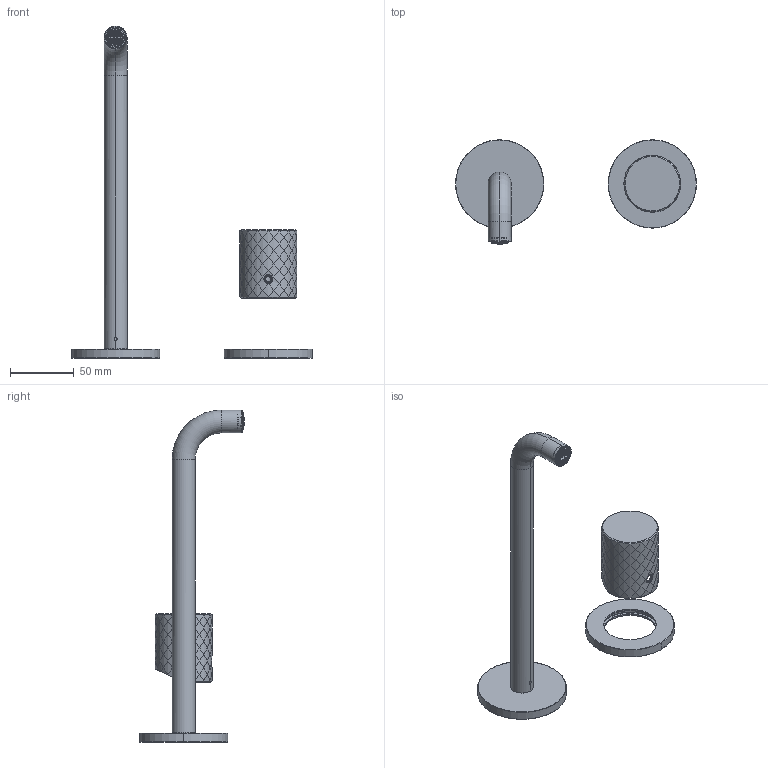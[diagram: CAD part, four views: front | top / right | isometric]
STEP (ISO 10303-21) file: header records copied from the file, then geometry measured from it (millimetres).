
FILE_DESCRIPTION((''),'2;1');
FILE_NAME('F3051ZX9X_FILE_3D','2019-02-19T',('ivanv'),(''),'CREO PARAMETRIC BY PTC INC, 2016260','CREO PARAMETRIC BY PTC INC, 2016260','');
FILE_SCHEMA(('CONFIG_CONTROL_DESIGN'));
Products named in the file (1): F3051ZX9X_FILE_3D
Bounding box: 189.5 x 82.61 x 261 mm (x, y, z)
Volume: 81552.4 mm3; surface area: 68686.2 mm2
Topology: 3 solids, 3 shells, 2876 faces, 8430 edges, 5619 vertices
Faces by surface type: plane 1770, cylinder 463, torus 435, bspline 160, cone 40, sphere 8
Entity records: 127158 total; most frequent: CARTESIAN_POINT 57196, ORIENTED_EDGE 16844, DIRECTION 11305, EDGE_CURVE 8422, VERTEX_POINT 5619, AXIS2_PLACEMENT_3D 4187, B_SPLINE_CURVE_WITH_KNOTS 4020, EDGE_LOOP 3233
